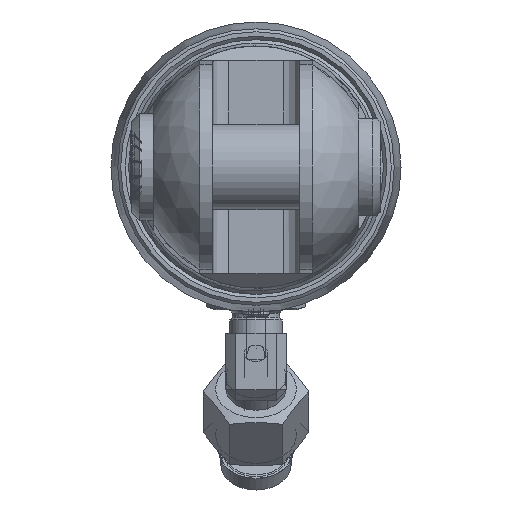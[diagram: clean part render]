
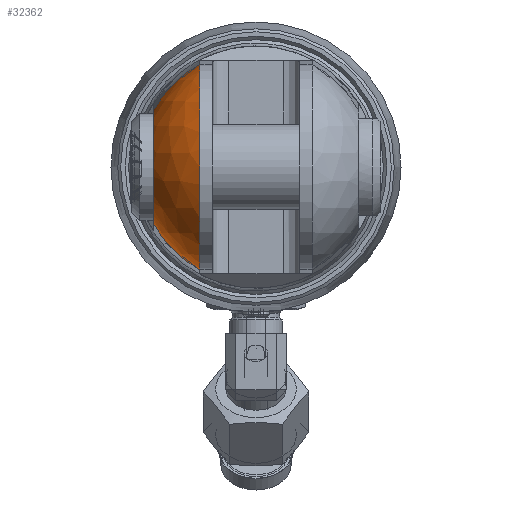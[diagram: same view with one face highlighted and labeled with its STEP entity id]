
A CAD part, left-side view. The second image highlights one B-rep face of the part: STEP entity #32362.
In plain terms, the highlighted spherical face has radius 21.732 mm.
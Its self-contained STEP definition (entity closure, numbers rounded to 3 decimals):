
#16=SPHERICAL_SURFACE('',#33966,21.732);
#3304=FACE_OUTER_BOUND('',#5007,.T.);
#5007=EDGE_LOOP('',(#28014,#28015,#28016,#28017));
#6739=CIRCLE('',#33941,21.729);
#6740=CIRCLE('',#33944,21.729);
#6745=CIRCLE('',#33958,19.056);
#6747=CIRCLE('',#33964,10.447);
#15071=VERTEX_POINT('',#58079);
#15072=VERTEX_POINT('',#58083);
#15076=VERTEX_POINT('',#58094);
#15077=VERTEX_POINT('',#58098);
#19457=EDGE_CURVE('',#15071,#15072,#6739,.T.);
#19463=EDGE_CURVE('',#15076,#15077,#6740,.T.);
#19482=EDGE_CURVE('',#15071,#15077,#6745,.T.);
#19485=EDGE_CURVE('',#15076,#15072,#6747,.T.);
#28014=ORIENTED_EDGE('',*,*,#19482,.T.);
#28015=ORIENTED_EDGE('',*,*,#19463,.F.);
#28016=ORIENTED_EDGE('',*,*,#19485,.T.);
#28017=ORIENTED_EDGE('',*,*,#19457,.F.);
#32362=ADVANCED_FACE('',(#3304),#16,.T.);
#33941=AXIS2_PLACEMENT_3D('',#58084,#39462,#39463);
#33944=AXIS2_PLACEMENT_3D('',#58099,#39469,#39470);
#33958=AXIS2_PLACEMENT_3D('',#58137,#39508,#39509);
#33964=AXIS2_PLACEMENT_3D('',#58144,#39521,#39522);
#33966=AXIS2_PLACEMENT_3D('',#58146,#39525,#39526);
#39462=DIRECTION('center_axis',(1.,0.,0.));
#39463=DIRECTION('ref_axis',(0.,0.,
1.));
#39469=DIRECTION('center_axis',(1.,0.,0.));
#39470=DIRECTION('ref_axis',(0.,0.,
1.));
#39508=DIRECTION('center_axis',(0.,1.,0.));
#39509=DIRECTION('ref_axis',(0.019,0.,-1.));
#39521=DIRECTION('center_axis',(0.,-1.,0.));
#39522=DIRECTION('ref_axis',(0.,0.,
-1.));
#39525=DIRECTION('center_axis',(0.,0.,1.));
#39526=DIRECTION('ref_axis',(-1.,0.,0.));
#58079=CARTESIAN_POINT('',(-45.635,10.447,-19.052));
#58083=CARTESIAN_POINT('',(-45.635,19.056,-10.441));
#58084=CARTESIAN_POINT('Origin',(-45.635,0.,
0.));
#58094=CARTESIAN_POINT('',(-45.635,19.056,10.441));
#58098=CARTESIAN_POINT('',(-45.635,10.447,19.052));
#58099=CARTESIAN_POINT('Origin',(-45.635,0.,
0.));
#58137=CARTESIAN_POINT('Origin',(-45.268,10.447,0.));
#58144=CARTESIAN_POINT('Origin',(-45.268,19.056,0.));
#58146=CARTESIAN_POINT('Origin',(-45.268,0.,
0.));
